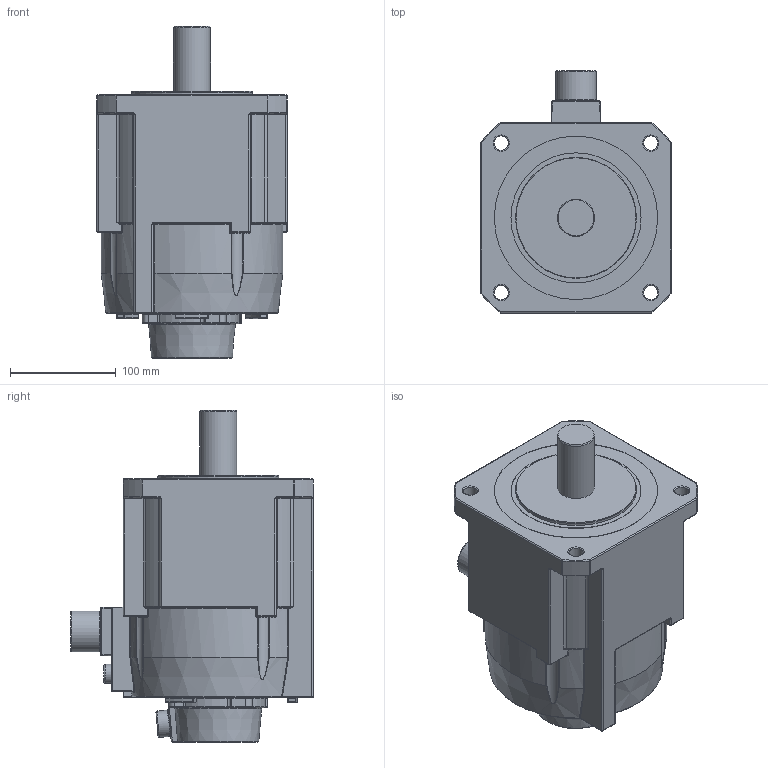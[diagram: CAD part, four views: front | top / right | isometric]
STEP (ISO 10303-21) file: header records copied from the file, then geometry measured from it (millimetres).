
FILE_DESCRIPTION(/* description */ (''),/* implementation_level */ '2;1');
FILE_NAME(/* name */ '01-180BAH27015 - FZ.stp',/* time_stamp */ '2020-08-27T15:03:56+08:00',/* author */ (''),/* organization */ (''),/* preprocessor_version */ 'ST-DEVELOPER v16',/* originating_system */ 'SIEMENS PLM Software NX 10.0',/* authorisation */ '');
FILE_SCHEMA (('CONFIG_CONTROL_DESIGN'));
Length unit declared in the file: millimetre
Products named in the file (1): 01-180BAH27015 - FZ
Bounding box: 180 x 229.5 x 314 mm (x, y, z)
Volume: 5911964.4 mm3; surface area: 228924.9 mm2
Topology: 1 solids, 1 shells, 576 faces, 1360 edges, 726 vertices
Faces by surface type: cylinder 228, torus 149, plane 79, bspline 59, sphere 52, cone 9
Full cylindrical faces by diameter (mm): 6.8 x2, 13.5 x4, 18 x1, 25 x1, 35 x1, 38.6 x1, 114.3 x1, 123 x1, 154.5 x1
Entity records: 18237 total; most frequent: CARTESIAN_POINT 5633, DIRECTION 2829, ORIENTED_EDGE 2502, EDGE_CURVE 1251, AXIS2_PLACEMENT_3D 1219, VERTEX_POINT 722, CIRCLE 682, EDGE_LOOP 627
